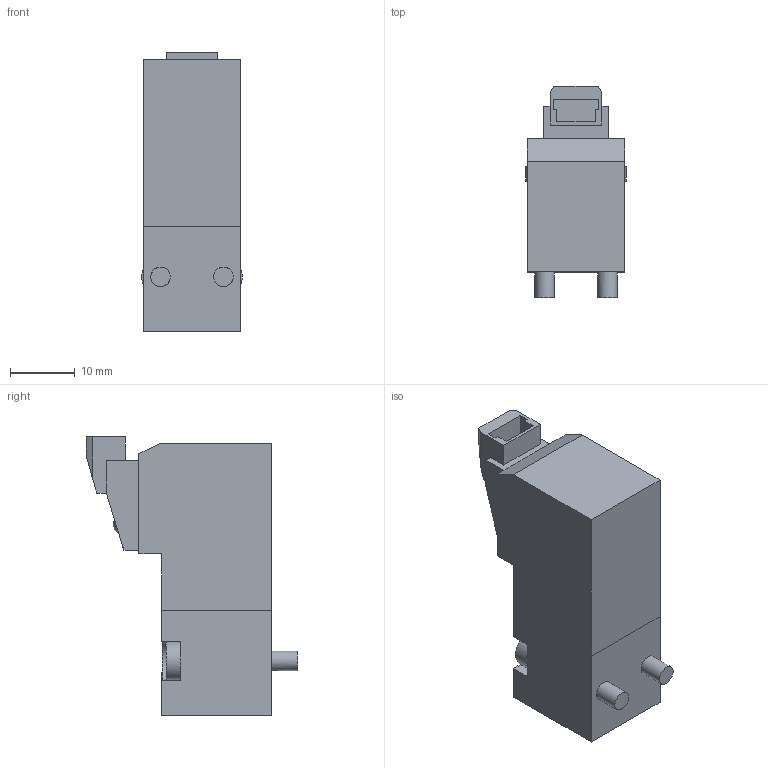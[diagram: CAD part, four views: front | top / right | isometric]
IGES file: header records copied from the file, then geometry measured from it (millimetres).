
Global section: file name: N3##_7L#; native system: Autodesk Inventor 2014; preprocessor: unknown; author: A. Manieri; organization: Pneumax S.p.A.; date: 20160913.142014; units: millimetre
Bounding box: 15.5 x 32.6 x 42.97 mm (x, y, z)
Volume: 12260.9 mm3; surface area: 4107 mm2
Topology: 1 solids, 1 shells, 93 faces, 240 edges, 157 vertices
Faces by surface type: bspline 93
